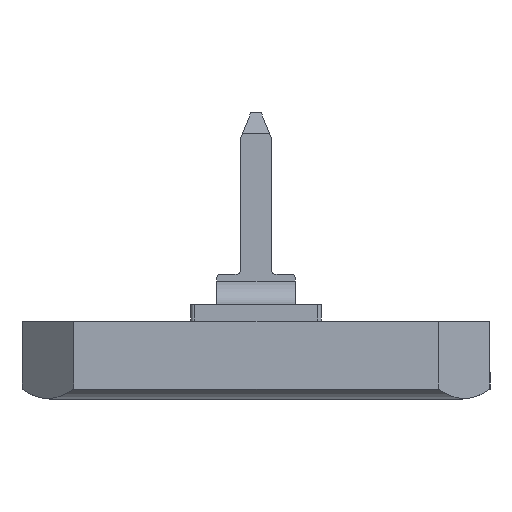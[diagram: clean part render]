
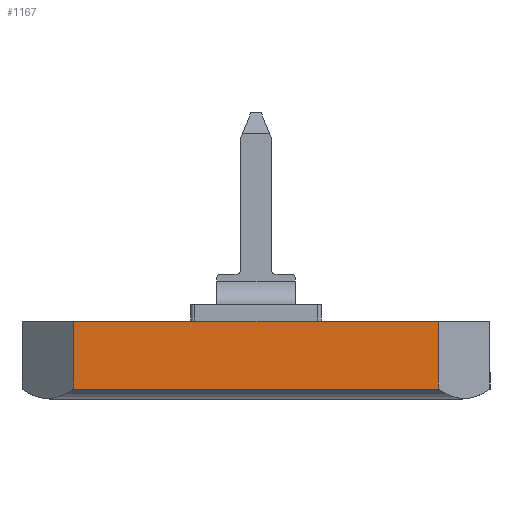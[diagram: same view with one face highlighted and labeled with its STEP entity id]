
A CAD part, left-side view. The second image highlights one B-rep face of the part: STEP entity #1167.
In plain terms, the highlighted planar face has unit normal (-1, 0, 0).
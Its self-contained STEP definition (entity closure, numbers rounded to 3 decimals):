
#19 = CARTESIAN_POINT ( 'NONE',  ( 0., 0., 0.385 ) ) ;
#335 = VERTEX_POINT ( 'NONE', #2224 ) ;
#455 = EDGE_CURVE ( 'NONE', #335, #1636, #2420, .T. ) ;
#485 = VECTOR ( 'NONE', #2275, 1000. ) ;
#648 = VECTOR ( 'NONE', #2454, 1000. ) ;
#692 = EDGE_CURVE ( 'NONE', #995, #335, #2626, .T. ) ;
#717 = CARTESIAN_POINT ( 'NONE',  ( 0., -1.981, 0.385 ) ) ;
#736 = VECTOR ( 'NONE', #2533, 1000. ) ;
#784 = CARTESIAN_POINT ( 'NONE',  ( 0., -16.002, 2.997 ) ) ;
#975 = EDGE_LOOP ( 'NONE', ( #2759, #2366, #1847, #1525 ) ) ;
#977 = CARTESIAN_POINT ( 'NONE',  ( 0., 0., 2.997 ) ) ;
#995 = VERTEX_POINT ( 'NONE', #717 ) ;
#1034 = AXIS2_PLACEMENT_3D ( 'NONE', #977, #1189, #2695 ) ;
#1105 = CARTESIAN_POINT ( 'NONE',  ( 0., -1.981, 2.997 ) ) ;
#1167 = ADVANCED_FACE ( 'NONE', ( #1459 ), #2249, .F. ) ;
#1189 = DIRECTION ( 'NONE',  ( 1., 0., 0. ) ) ;
#1375 = CARTESIAN_POINT ( 'NONE',  ( 0., -1.981, 2.997 ) ) ;
#1457 = DIRECTION ( 'NONE',  ( 0., -1., 0. ) ) ;
#1459 = FACE_OUTER_BOUND ( 'NONE', #975, .T. ) ;
#1473 = EDGE_CURVE ( 'NONE', #2615, #995, #2198, .T. ) ;
#1525 = ORIENTED_EDGE ( 'NONE', *, *, #1655, .F. ) ;
#1636 = VERTEX_POINT ( 'NONE', #2590 ) ;
#1655 = EDGE_CURVE ( 'NONE', #2615, #1636, #1867, .T. ) ;
#1847 = ORIENTED_EDGE ( 'NONE', *, *, #455, .T. ) ;
#1867 = LINE ( 'NONE', #2552, #736 ) ;
#2198 = LINE ( 'NONE', #1375, #648 ) ;
#2224 = CARTESIAN_POINT ( 'NONE',  ( 0., -16.002, 0.385 ) ) ;
#2249 = PLANE ( 'NONE',  #1034 ) ;
#2275 = DIRECTION ( 'NONE',  ( 0., 0., 1. ) ) ;
#2366 = ORIENTED_EDGE ( 'NONE', *, *, #692, .T. ) ;
#2420 = LINE ( 'NONE', #784, #485 ) ;
#2454 = DIRECTION ( 'NONE',  ( 0., 0., -1. ) ) ;
#2533 = DIRECTION ( 'NONE',  ( 0., -1., 0. ) ) ;
#2552 = CARTESIAN_POINT ( 'NONE',  ( 0., 0., 2.997 ) ) ;
#2590 = CARTESIAN_POINT ( 'NONE',  ( 0., -16.002, 2.997 ) ) ;
#2596 = VECTOR ( 'NONE', #1457, 1000. ) ;
#2615 = VERTEX_POINT ( 'NONE', #1105 ) ;
#2626 = LINE ( 'NONE', #19, #2596 ) ;
#2695 = DIRECTION ( 'NONE',  ( 0., 1., 0. ) ) ;
#2759 = ORIENTED_EDGE ( 'NONE', *, *, #1473, .T. ) ;
